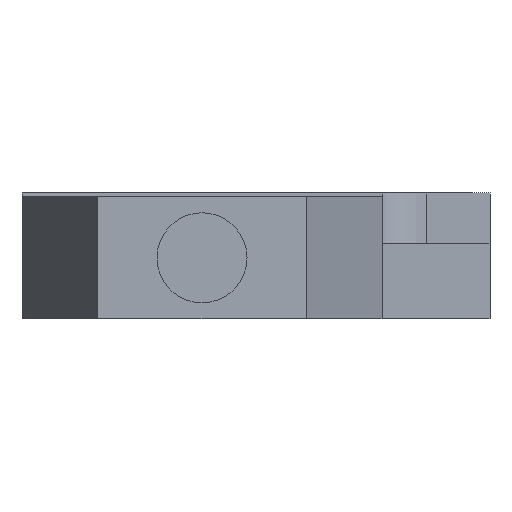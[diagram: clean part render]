
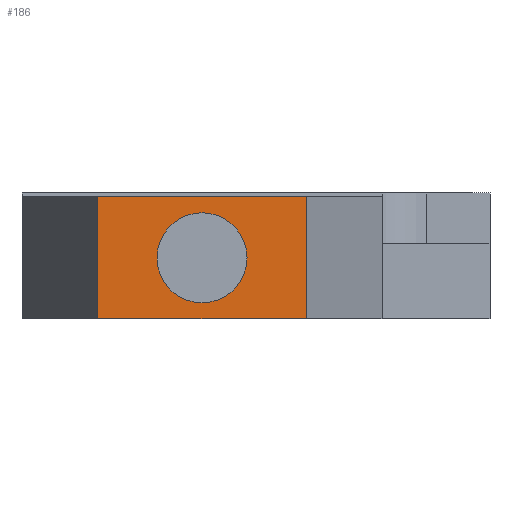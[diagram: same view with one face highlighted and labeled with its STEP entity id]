
A CAD part, front view. The second image highlights one B-rep face of the part: STEP entity #186.
In plain terms, the highlighted planar face has unit normal (0, -1, 0).
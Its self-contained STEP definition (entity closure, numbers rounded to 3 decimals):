
#6 = EDGE_LOOP ( 'NONE', ( #11, #105 ) ) ;
#7 = VERTEX_POINT ( 'NONE', #518 ) ;
#8 = EDGE_CURVE ( 'NONE', #7, #194, #517, .T. ) ;
#9 = ORIENTED_EDGE ( 'NONE', *, *, #8, .F. ) ;
#10 = EDGE_CURVE ( 'NONE', #7, #190, #513, .T. ) ;
#11 = ORIENTED_EDGE ( 'NONE', *, *, #13, .F. ) ;
#12 = ORIENTED_EDGE ( 'NONE', *, *, #10, .T. ) ;
#13 = EDGE_CURVE ( 'NONE', #226, #223, #509, .T. ) ;
#105 = ORIENTED_EDGE ( 'NONE', *, *, #225, .F. ) ;
#186 = ADVANCED_FACE ( 'NONE', ( #786, #785 ), #784, .F. ) ;
#187 = EDGE_LOOP ( 'NONE', ( #188, #192, #9, #12 ) ) ;
#188 = ORIENTED_EDGE ( 'NONE', *, *, #189, .T. ) ;
#189 = EDGE_CURVE ( 'NONE', #190, #191, #779, .T. ) ;
#190 = VERTEX_POINT ( 'NONE', #775 ) ;
#191 = VERTEX_POINT ( 'NONE', #774 ) ;
#192 = ORIENTED_EDGE ( 'NONE', *, *, #193, .F. ) ;
#193 = EDGE_CURVE ( 'NONE', #194, #191, #773, .T. ) ;
#194 = VERTEX_POINT ( 'NONE', #769 ) ;
#223 = VERTEX_POINT ( 'NONE', #709 ) ;
#225 = EDGE_CURVE ( 'NONE', #223, #226, #708, .T. ) ;
#226 = VERTEX_POINT ( 'NONE', #703 ) ;
#491 = DIRECTION ( 'NONE',  ( 0., 0., 1. ) ) ;
#492 = DIRECTION ( 'NONE',  ( 0., -1., 0. ) ) ;
#507 = CARTESIAN_POINT ( 'NONE',  ( 1.5, -12.75, 1.7 ) ) ;
#508 = AXIS2_PLACEMENT_3D ( 'NONE', #507, #492, #491 ) ;
#509 = CIRCLE ( 'NONE', #508, 1.25 ) ;
#510 = DIRECTION ( 'NONE',  ( 0., 0., -1. ) ) ;
#511 = VECTOR ( 'NONE', #510, 1000. ) ;
#512 = CARTESIAN_POINT ( 'NONE',  ( -1.402, -12.75, 3.4 ) ) ;
#513 = LINE ( 'NONE', #512, #511 ) ;
#514 = DIRECTION ( 'NONE',  ( 1., 0., 0. ) ) ;
#515 = VECTOR ( 'NONE', #514, 1000. ) ;
#516 = CARTESIAN_POINT ( 'NONE',  ( -1.402, -12.75, 3.4 ) ) ;
#517 = LINE ( 'NONE', #516, #515 ) ;
#518 = CARTESIAN_POINT ( 'NONE',  ( -1.402, -12.75, 3.4 ) ) ;
#703 = CARTESIAN_POINT ( 'NONE',  ( 1.5, -12.75, 2.95 ) ) ;
#704 = DIRECTION ( 'NONE',  ( 0., 0., 1. ) ) ;
#705 = DIRECTION ( 'NONE',  ( 0., -1., 0. ) ) ;
#706 = CARTESIAN_POINT ( 'NONE',  ( 1.5, -12.75, 1.7 ) ) ;
#707 = AXIS2_PLACEMENT_3D ( 'NONE', #706, #705, #704 ) ;
#708 = CIRCLE ( 'NONE', #707, 1.25 ) ;
#709 = CARTESIAN_POINT ( 'NONE',  ( 1.5, -12.75, 0.45 ) ) ;
#769 = CARTESIAN_POINT ( 'NONE',  ( 4.402, -12.75, 3.4 ) ) ;
#770 = DIRECTION ( 'NONE',  ( 0., 0., -1. ) ) ;
#771 = VECTOR ( 'NONE', #770, 1000. ) ;
#772 = CARTESIAN_POINT ( 'NONE',  ( 4.402, -12.75, 3.4 ) ) ;
#773 = LINE ( 'NONE', #772, #771 ) ;
#774 = CARTESIAN_POINT ( 'NONE',  ( 4.402, -12.75, 0. ) ) ;
#775 = CARTESIAN_POINT ( 'NONE',  ( -1.402, -12.75, 0. ) ) ;
#776 = DIRECTION ( 'NONE',  ( 1., 0., 0. ) ) ;
#777 = VECTOR ( 'NONE', #776, 1000. ) ;
#778 = CARTESIAN_POINT ( 'NONE',  ( -1.402, -12.75, 0. ) ) ;
#779 = LINE ( 'NONE', #778, #777 ) ;
#780 = DIRECTION ( 'NONE',  ( 0., 0., 1. ) ) ;
#781 = DIRECTION ( 'NONE',  ( 0., 1., 0. ) ) ;
#782 = CARTESIAN_POINT ( 'NONE',  ( -1.402, -12.75, 3.4 ) ) ;
#783 = AXIS2_PLACEMENT_3D ( 'NONE', #782, #781, #780 ) ;
#784 = PLANE ( 'NONE',  #783 ) ;
#785 = FACE_BOUND ( 'NONE', #6, .T. ) ;
#786 = FACE_OUTER_BOUND ( 'NONE', #187, .T. ) ;
